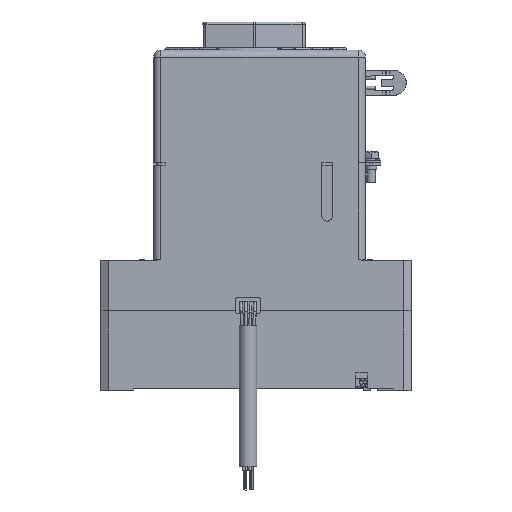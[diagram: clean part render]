
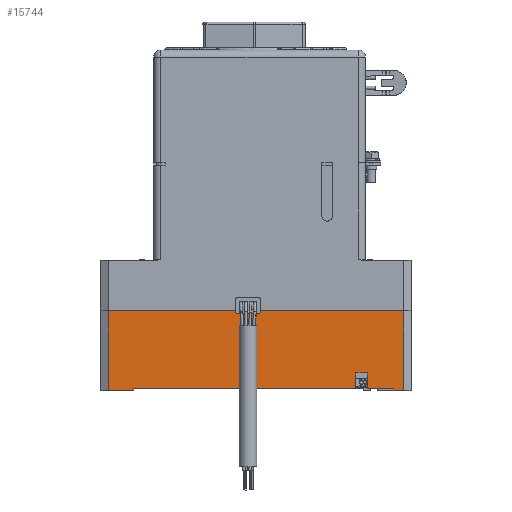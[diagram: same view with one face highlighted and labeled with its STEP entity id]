
A CAD part, left-side view. The second image highlights one B-rep face of the part: STEP entity #15744.
In plain terms, the highlighted planar face has unit normal (-1, 0, 0).
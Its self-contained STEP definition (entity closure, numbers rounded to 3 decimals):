
#684 = VECTOR ( 'NONE', #16932, 1000. ) ;
#948 = CARTESIAN_POINT ( 'NONE',  ( -56.25, 83.2, 0. ) ) ;
#992 = CARTESIAN_POINT ( 'NONE',  ( -56.25, 83.2, -45. ) ) ;
#1171 = CARTESIAN_POINT ( 'NONE',  ( -56.25, -77.5, -44. ) ) ;
#1707 = EDGE_CURVE ( 'NONE', #47158, #30897, #57103, .T. ) ;
#3170 = VECTOR ( 'NONE', #44399, 1000. ) ;
#7074 = VERTEX_POINT ( 'NONE', #29387 ) ;
#7277 = EDGE_LOOP ( 'NONE', ( #18526, #19852, #53733, #67019, #27481, #34636, #16315, #35220, #67235, #17920, #56558, #49634 ) ) ;
#7297 = VECTOR ( 'NONE', #8903, 1000. ) ;
#7428 = VERTEX_POINT ( 'NONE', #1171 ) ;
#8017 = VECTOR ( 'NONE', #54754, 1000. ) ;
#8117 = DIRECTION ( 'NONE',  ( 0., -1., 0. ) ) ;
#8157 = CARTESIAN_POINT ( 'NONE',  ( -56.25, -87.5, 0. ) ) ;
#8903 = DIRECTION ( 'NONE',  ( 0., 0., -1. ) ) ;
#9889 = VECTOR ( 'NONE', #58109, 1000. ) ;
#10404 = LINE ( 'NONE', #36760, #31077 ) ;
#10503 = CARTESIAN_POINT ( 'NONE',  ( -56.25, 69., -45. ) ) ;
#10627 = CARTESIAN_POINT ( 'NONE',  ( -56.25, 69., 144.712 ) ) ;
#11106 = LINE ( 'NONE', #53691, #37649 ) ;
#11621 = CARTESIAN_POINT ( 'NONE',  ( -56.25, -56.3, -35. ) ) ;
#11668 = LINE ( 'NONE', #64672, #14179 ) ;
#14179 = VECTOR ( 'NONE', #58695, 1000. ) ;
#15260 = DIRECTION ( 'NONE',  ( 0., 0., -1. ) ) ;
#15744 = ADVANCED_FACE ( 'NONE', ( #41521 ), #38628, .T. ) ;
#15938 = VECTOR ( 'NONE', #8117, 1000. ) ;
#16210 = DIRECTION ( 'NONE',  ( 0., -1., 0. ) ) ;
#16315 = ORIENTED_EDGE ( 'NONE', *, *, #23769, .T. ) ;
#16932 = DIRECTION ( 'NONE',  ( 0., -1., 0. ) ) ;
#17776 = EDGE_CURVE ( 'NONE', #35254, #62177, #46997, .T. ) ;
#17813 = CARTESIAN_POINT ( 'NONE',  ( -56.25, -87.5, -45. ) ) ;
#17920 = ORIENTED_EDGE ( 'NONE', *, *, #33869, .T. ) ;
#18272 = VERTEX_POINT ( 'NONE', #24798 ) ;
#18526 = ORIENTED_EDGE ( 'NONE', *, *, #64063, .F. ) ;
#19208 = CARTESIAN_POINT ( 'NONE',  ( -56.25, -62.8, -35. ) ) ;
#19852 = ORIENTED_EDGE ( 'NONE', *, *, #1707, .T. ) ;
#21120 = EDGE_CURVE ( 'NONE', #30897, #18272, #11106, .T. ) ;
#22913 = CARTESIAN_POINT ( 'NONE',  ( -56.25, -87.5, -45. ) ) ;
#23769 = EDGE_CURVE ( 'NONE', #7074, #37701, #41449, .T. ) ;
#24373 = CARTESIAN_POINT ( 'NONE',  ( -56.25, -77.5, 144.712 ) ) ;
#24798 = CARTESIAN_POINT ( 'NONE',  ( -56.25, -62.8, -44. ) ) ;
#25015 = CARTESIAN_POINT ( 'NONE',  ( -56.25, -77.5, -45. ) ) ;
#26799 = EDGE_CURVE ( 'NONE', #35254, #65131, #60941, .T. ) ;
#27481 = ORIENTED_EDGE ( 'NONE', *, *, #65996, .T. ) ;
#27712 = CARTESIAN_POINT ( 'NONE',  ( -56.25, -56.3, -44. ) ) ;
#28520 = CARTESIAN_POINT ( 'NONE',  ( -56.25, -87.5, -45. ) ) ;
#29387 = CARTESIAN_POINT ( 'NONE',  ( -56.25, -83.2, -45. ) ) ;
#30803 = CARTESIAN_POINT ( 'NONE',  ( -56.25, -62.8, -35. ) ) ;
#30897 = VERTEX_POINT ( 'NONE', #19208 ) ;
#31077 = VECTOR ( 'NONE', #16210, 1000. ) ;
#32104 = EDGE_CURVE ( 'NONE', #54092, #7074, #39426, .T. ) ;
#32632 = DIRECTION ( 'NONE',  ( 0., 1., 0. ) ) ;
#33013 = VERTEX_POINT ( 'NONE', #948 ) ;
#33199 = LINE ( 'NONE', #57156, #63711 ) ;
#33869 = EDGE_CURVE ( 'NONE', #67041, #62177, #49197, .T. ) ;
#34636 = ORIENTED_EDGE ( 'NONE', *, *, #32104, .T. ) ;
#35220 = ORIENTED_EDGE ( 'NONE', *, *, #42548, .F. ) ;
#35254 = VERTEX_POINT ( 'NONE', #50072 ) ;
#35371 = LINE ( 'NONE', #24373, #7297 ) ;
#36760 = CARTESIAN_POINT ( 'NONE',  ( -56.25, 69., -44. ) ) ;
#37649 = VECTOR ( 'NONE', #37845, 1000. ) ;
#37701 = VERTEX_POINT ( 'NONE', #58905 ) ;
#37845 = DIRECTION ( 'NONE',  ( 0., 0., -1. ) ) ;
#38582 = DIRECTION ( 'NONE',  ( 0., -1., 0. ) ) ;
#38628 = PLANE ( 'NONE',  #47398 ) ;
#39051 = CARTESIAN_POINT ( 'NONE',  ( -56.25, -83.2, -45. ) ) ;
#39426 = LINE ( 'NONE', #28520, #8017 ) ;
#39534 = LINE ( 'NONE', #8157, #3170 ) ;
#41449 = LINE ( 'NONE', #39051, #48822 ) ;
#41521 = FACE_OUTER_BOUND ( 'NONE', #7277, .T. ) ;
#42548 = EDGE_CURVE ( 'NONE', #33013, #37701, #39534, .T. ) ;
#43844 = EDGE_CURVE ( 'NONE', #18272, #7428, #10404, .T. ) ;
#44337 = DIRECTION ( 'NONE',  ( 0., 0., 1. ) ) ;
#44399 = DIRECTION ( 'NONE',  ( 0., -1., 0. ) ) ;
#46751 = CARTESIAN_POINT ( 'NONE',  ( -56.25, 69., -44. ) ) ;
#46997 = LINE ( 'NONE', #10627, #9889 ) ;
#47158 = VERTEX_POINT ( 'NONE', #11621 ) ;
#47398 = AXIS2_PLACEMENT_3D ( 'NONE', #22913, #64172, #32632 ) ;
#48822 = VECTOR ( 'NONE', #44337, 1000. ) ;
#49197 = LINE ( 'NONE', #17813, #65668 ) ;
#49634 = ORIENTED_EDGE ( 'NONE', *, *, #26799, .T. ) ;
#50072 = CARTESIAN_POINT ( 'NONE',  ( -56.25, 69., -44. ) ) ;
#53691 = CARTESIAN_POINT ( 'NONE',  ( -56.25, -62.8, 92.737 ) ) ;
#53733 = ORIENTED_EDGE ( 'NONE', *, *, #21120, .T. ) ;
#54092 = VERTEX_POINT ( 'NONE', #25015 ) ;
#54754 = DIRECTION ( 'NONE',  ( 0., -1., 0. ) ) ;
#56558 = ORIENTED_EDGE ( 'NONE', *, *, #17776, .F. ) ;
#57103 = LINE ( 'NONE', #30803, #15938 ) ;
#57156 = CARTESIAN_POINT ( 'NONE',  ( -56.25, 83.2, -45. ) ) ;
#58109 = DIRECTION ( 'NONE',  ( 0., 0., -1. ) ) ;
#58695 = DIRECTION ( 'NONE',  ( 0., 0., -1. ) ) ;
#58905 = CARTESIAN_POINT ( 'NONE',  ( -56.25, -83.2, 0. ) ) ;
#60941 = LINE ( 'NONE', #46751, #684 ) ;
#62177 = VERTEX_POINT ( 'NONE', #10503 ) ;
#63428 = EDGE_CURVE ( 'NONE', #33013, #67041, #33199, .T. ) ;
#63711 = VECTOR ( 'NONE', #15260, 1000. ) ;
#64063 = EDGE_CURVE ( 'NONE', #47158, #65131, #11668, .T. ) ;
#64172 = DIRECTION ( 'NONE',  ( -1., 0., 0. ) ) ;
#64672 = CARTESIAN_POINT ( 'NONE',  ( -56.25, -56.3, 92.737 ) ) ;
#65131 = VERTEX_POINT ( 'NONE', #27712 ) ;
#65668 = VECTOR ( 'NONE', #38582, 1000. ) ;
#65996 = EDGE_CURVE ( 'NONE', #7428, #54092, #35371, .T. ) ;
#67019 = ORIENTED_EDGE ( 'NONE', *, *, #43844, .T. ) ;
#67041 = VERTEX_POINT ( 'NONE', #992 ) ;
#67235 = ORIENTED_EDGE ( 'NONE', *, *, #63428, .T. ) ;
